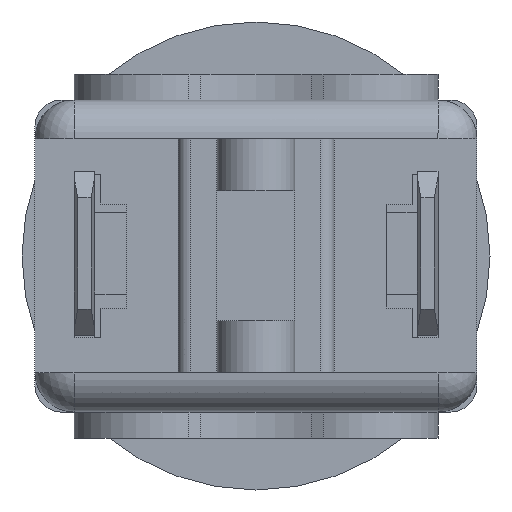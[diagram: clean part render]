
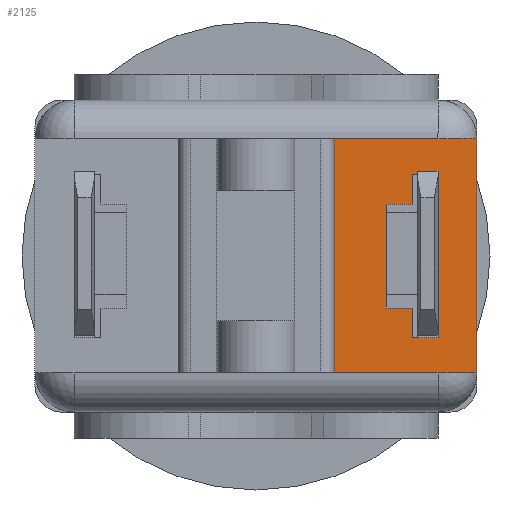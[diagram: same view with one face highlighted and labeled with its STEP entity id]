
A CAD part, front view. The second image highlights one B-rep face of the part: STEP entity #2125.
In plain terms, the highlighted planar face has unit normal (0, -1, 0).
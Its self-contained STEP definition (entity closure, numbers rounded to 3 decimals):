
#117=DIRECTION('',(0.,0.,1.));
#118=VECTOR('',#117,6.3);
#119=CARTESIAN_POINT('',(7.,-9.,2.85));
#120=LINE('',#119,#118);
#121=DIRECTION('',(-1.,0.,0.));
#122=VECTOR('',#121,1.);
#123=CARTESIAN_POINT('',(7.,-9.,9.15));
#124=LINE('',#123,#122);
#125=DIRECTION('',(0.,0.,-1.));
#126=VECTOR('',#125,1.15);
#127=CARTESIAN_POINT('',(6.,-9.,9.15));
#128=LINE('',#127,#126);
#129=DIRECTION('',(-1.,0.,0.));
#130=VECTOR('',#129,1.);
#131=CARTESIAN_POINT('',(6.,-9.,8.));
#132=LINE('',#131,#130);
#133=DIRECTION('',(0.,0.,-1.));
#134=VECTOR('',#133,4.);
#135=CARTESIAN_POINT('',(5.,-9.,8.));
#136=LINE('',#135,#134);
#137=DIRECTION('',(1.,0.,0.));
#138=VECTOR('',#137,1.);
#139=CARTESIAN_POINT('',(5.,-9.,4.));
#140=LINE('',#139,#138);
#141=DIRECTION('',(0.,0.,-1.));
#142=VECTOR('',#141,1.15);
#143=CARTESIAN_POINT('',(6.,-9.,4.));
#144=LINE('',#143,#142);
#145=DIRECTION('',(1.,0.,0.));
#146=VECTOR('',#145,1.);
#147=CARTESIAN_POINT('',(6.,-9.,2.85));
#148=LINE('',#147,#146);
#149=DIRECTION('',(-1.,0.,0.));
#150=VECTOR('',#149,5.5);
#151=CARTESIAN_POINT('',(8.5,-9.,1.5));
#152=LINE('',#151,#150);
#153=DIRECTION('',(-1.,0.,0.));
#154=VECTOR('',#153,5.5);
#155=CARTESIAN_POINT('',(8.5,-9.,10.5));
#156=LINE('',#155,#154);
#157=DIRECTION('',(0.,0.,1.));
#158=VECTOR('',#157,9.);
#159=CARTESIAN_POINT('',(8.5,-9.,1.5));
#160=LINE('',#159,#158);
#1416=DIRECTION('',(0.,0.,1.));
#1417=VECTOR('',#1416,9.);
#1418=CARTESIAN_POINT('',(3.,-9.,1.5));
#1419=LINE('',#1418,#1417);
#1540=CARTESIAN_POINT('',(7.,-9.,2.85));
#1541=CARTESIAN_POINT('',(7.,-9.,9.15));
#1542=VERTEX_POINT('',#1540);
#1543=VERTEX_POINT('',#1541);
#1544=CARTESIAN_POINT('',(6.,-9.,9.15));
#1545=VERTEX_POINT('',#1544);
#1546=CARTESIAN_POINT('',(6.,-9.,8.));
#1547=VERTEX_POINT('',#1546);
#1548=CARTESIAN_POINT('',(5.,-9.,8.));
#1549=VERTEX_POINT('',#1548);
#1550=CARTESIAN_POINT('',(5.,-9.,4.));
#1551=VERTEX_POINT('',#1550);
#1552=CARTESIAN_POINT('',(6.,-9.,4.));
#1553=VERTEX_POINT('',#1552);
#1554=CARTESIAN_POINT('',(6.,-9.,2.85));
#1555=VERTEX_POINT('',#1554);
#1652=CARTESIAN_POINT('',(3.,-9.,1.5));
#1654=VERTEX_POINT('',#1652);
#1668=CARTESIAN_POINT('',(3.,-9.,10.5));
#1670=VERTEX_POINT('',#1668);
#1683=CARTESIAN_POINT('',(8.5,-9.,1.5));
#1685=VERTEX_POINT('',#1683);
#1722=CARTESIAN_POINT('',(8.5,-9.,10.5));
#1723=VERTEX_POINT('',#1722);
#2093=CARTESIAN_POINT('',(8.5,-9.,0.));
#2094=DIRECTION('',(0.,1.,0.));
#2095=DIRECTION('',(-1.,0.,0.));
#2096=AXIS2_PLACEMENT_3D('',#2093,#2094,#2095);
#2097=PLANE('',#2096);
#2099=ORIENTED_EDGE('',*,*,#2098,.T.);
#2101=ORIENTED_EDGE('',*,*,#2100,.T.);
#2103=ORIENTED_EDGE('',*,*,#2102,.F.);
#2104=ORIENTED_EDGE('',*,*,#2085,.F.);
#2105=EDGE_LOOP('',(#2099,#2101,#2103,#2104));
#2106=FACE_OUTER_BOUND('',#2105,.F.);
#2108=ORIENTED_EDGE('',*,*,#2107,.T.);
#2110=ORIENTED_EDGE('',*,*,#2109,.T.);
#2112=ORIENTED_EDGE('',*,*,#2111,.T.);
#2114=ORIENTED_EDGE('',*,*,#2113,.T.);
#2116=ORIENTED_EDGE('',*,*,#2115,.T.);
#2118=ORIENTED_EDGE('',*,*,#2117,.T.);
#2120=ORIENTED_EDGE('',*,*,#2119,.T.);
#2122=ORIENTED_EDGE('',*,*,#2121,.T.);
#2123=EDGE_LOOP('',(#2108,#2110,#2112,#2114,#2116,#2118,#2120,#2122));
#2124=FACE_BOUND('',#2123,.F.);
#2085=EDGE_CURVE('',#1685,#1723,#160,.T.);
#2098=EDGE_CURVE('',#1685,#1654,#152,.T.);
#2100=EDGE_CURVE('',#1654,#1670,#1419,.T.);
#2102=EDGE_CURVE('',#1723,#1670,#156,.T.);
#2107=EDGE_CURVE('',#1542,#1543,#120,.T.);
#2109=EDGE_CURVE('',#1543,#1545,#124,.T.);
#2111=EDGE_CURVE('',#1545,#1547,#128,.T.);
#2113=EDGE_CURVE('',#1547,#1549,#132,.T.);
#2115=EDGE_CURVE('',#1549,#1551,#136,.T.);
#2117=EDGE_CURVE('',#1551,#1553,#140,.T.);
#2119=EDGE_CURVE('',#1553,#1555,#144,.T.);
#2121=EDGE_CURVE('',#1555,#1542,#148,.T.);
#2125=ADVANCED_FACE('',(#2106,#2124),#2097,.F.);
